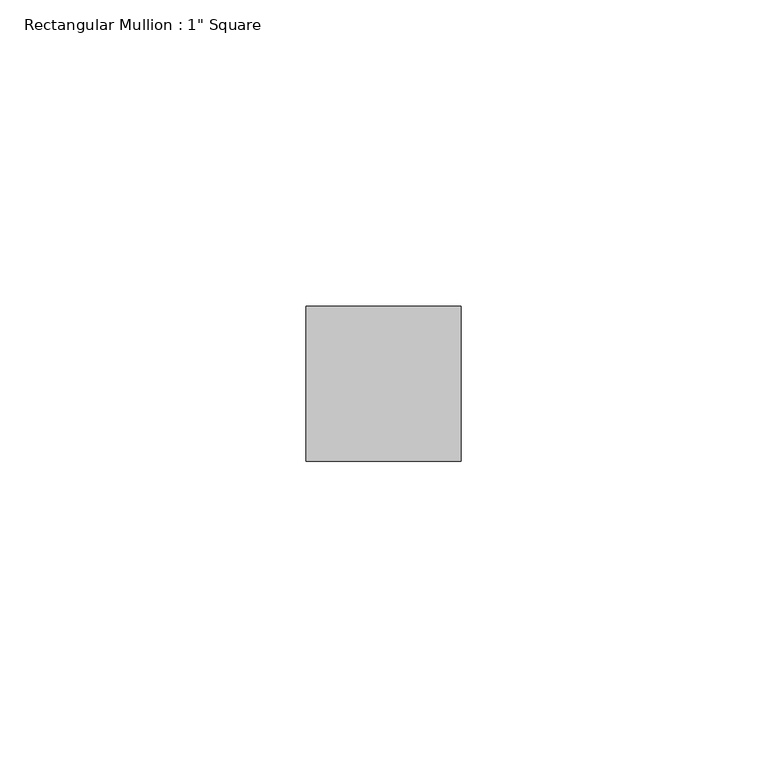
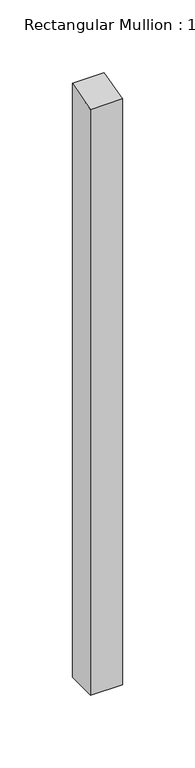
"""IFC4 building model written with IfcOpenShell, lengths in millimetres: member geometry."""

from ifc_helpers import new_model, si_unit, origin, place, context, project, spatial, faceted_brep, source, transform, mapped, element, save


def member_0167d042(model_context):
    return source(origin(), model_context, "Body", "Brep", [
        faceted_brep([(0.0, 12.7, -496.7079644), (0.0, -12.7, -496.7079644), (-25.4, -12.7, -496.7079644), (-25.4, 12.7, -496.7079644), (-25.4, 12.7, 3.0398636), (0.0, 12.7, 3.3379621), (-25.4, -12.7, -3.6360607), (0.0, -12.7, -3.3379621)], [[[0, 1, 2, 3]], [[4, 5, 0, 3]], [[6, 4, 3, 2]], [[7, 6, 2, 1]], [[5, 7, 1, 0]], [[5, 4, 6, 7]]]),
    ])


if __name__ == "__main__":
    model = new_model("IFC4")
    model_context = context("Model", 3, world=origin())
    ifc_project = project(units=[si_unit("LENGTHUNIT", "METRE", prefix="MILLI")], contexts=[model_context])
    site = spatial("IfcSite", under=ifc_project)
    building = spatial("IfcBuilding", under=site)
    placement = place(None, origin())
    member_shape = member_0167d042(model_context)
    element("IfcMember", 1, ObjectType="Rectangular Mullion : 1\" Square", at=placement, inside=building, context=model_context, shape_type="MappedRepresentation", body=[
        mapped(member_shape, transform((0.0, 0.0, 0.0), x_axis=(1.0, 0.0, 0.0), y_axis=(0.0, 1.0, 0.0), z_axis=(0.0, 0.0, 1.0))),
    ])
    save(model, "model.ifc")
